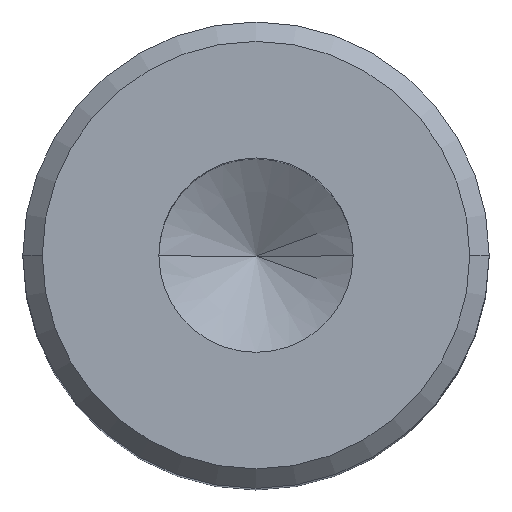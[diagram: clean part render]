
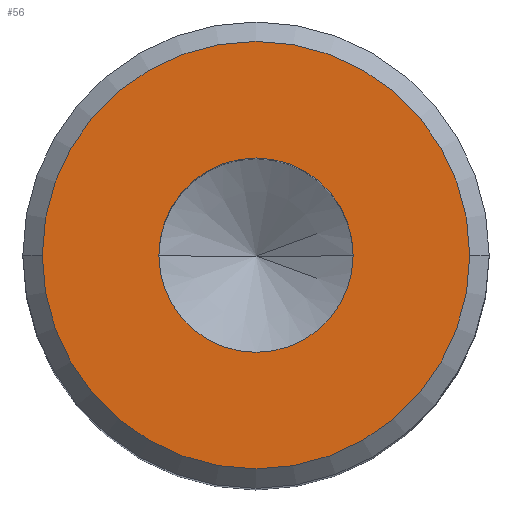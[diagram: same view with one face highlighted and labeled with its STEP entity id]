
A CAD part, top view. The second image highlights one B-rep face of the part: STEP entity #56.
In plain terms, the highlighted planar face has unit normal (0, 0, 1).
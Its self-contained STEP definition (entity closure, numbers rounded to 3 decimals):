
#20 = CARTESIAN_POINT ( 'NONE',  ( 0., 0., 25. ) ) ;
#26 = EDGE_CURVE ( 'NONE', #303, #65, #436, .T. ) ;
#35 = CARTESIAN_POINT ( 'NONE',  ( 0., 0., 25. ) ) ;
#45 = AXIS2_PLACEMENT_3D ( 'NONE', #325, #75, #362 ) ;
#53 = EDGE_CURVE ( 'NONE', #272, #454, #267, .T. ) ;
#56 = ADVANCED_FACE ( 'NONE', ( #170, #232 ), #396, .T. ) ;
#64 = ORIENTED_EDGE ( 'NONE', *, *, #317, .T. ) ;
#65 = VERTEX_POINT ( 'NONE', #397 ) ;
#66 = CARTESIAN_POINT ( 'NONE',  ( 5.5, 0., 25. ) ) ;
#75 = DIRECTION ( 'NONE',  ( 0., 0., 1. ) ) ;
#103 = DIRECTION ( 'NONE',  ( 1., 0., 0. ) ) ;
#120 = CIRCLE ( 'NONE', #147, 5.5 ) ;
#123 = EDGE_LOOP ( 'NONE', ( #64, #363 ) ) ;
#147 = AXIS2_PLACEMENT_3D ( 'NONE', #35, #470, #103 ) ;
#149 = ORIENTED_EDGE ( 'NONE', *, *, #53, .F. ) ;
#156 = AXIS2_PLACEMENT_3D ( 'NONE', #201, #207, #312 ) ;
#166 = DIRECTION ( 'NONE',  ( 0., 0., 1. ) ) ;
#170 = FACE_BOUND ( 'NONE', #474, .T. ) ;
#199 = CARTESIAN_POINT ( 'NONE',  ( 0., 0., 25. ) ) ;
#201 = CARTESIAN_POINT ( 'NONE',  ( 0., 0., 25. ) ) ;
#207 = DIRECTION ( 'NONE',  ( 0., 0., 1. ) ) ;
#216 = AXIS2_PLACEMENT_3D ( 'NONE', #199, #166, #244 ) ;
#217 = CARTESIAN_POINT ( 'NONE',  ( -2.5, 0., 25. ) ) ;
#232 = FACE_OUTER_BOUND ( 'NONE', #123, .T. ) ;
#244 = DIRECTION ( 'NONE',  ( 1., 0., 0. ) ) ;
#267 = CIRCLE ( 'NONE', #156, 2.5 ) ;
#272 = VERTEX_POINT ( 'NONE', #326 ) ;
#303 = VERTEX_POINT ( 'NONE', #66 ) ;
#312 = DIRECTION ( 'NONE',  ( 1., 0., 0. ) ) ;
#317 = EDGE_CURVE ( 'NONE', #65, #303, #120, .T. ) ;
#318 = DIRECTION ( 'NONE',  ( 0., 0., 1. ) ) ;
#325 = CARTESIAN_POINT ( 'NONE',  ( 0., 0., 25. ) ) ;
#326 = CARTESIAN_POINT ( 'NONE',  ( 2.5, 0., 25. ) ) ;
#352 = DIRECTION ( 'NONE',  ( 1., 0., 0. ) ) ;
#353 = EDGE_CURVE ( 'NONE', #454, #272, #370, .T. ) ;
#362 = DIRECTION ( 'NONE',  ( 1., 0., 0. ) ) ;
#363 = ORIENTED_EDGE ( 'NONE', *, *, #26, .T. ) ;
#370 = CIRCLE ( 'NONE', #45, 2.5 ) ;
#396 = PLANE ( 'NONE',  #216 ) ;
#397 = CARTESIAN_POINT ( 'NONE',  ( -5.5, 0., 25. ) ) ;
#398 = AXIS2_PLACEMENT_3D ( 'NONE', #20, #318, #352 ) ;
#403 = ORIENTED_EDGE ( 'NONE', *, *, #353, .F. ) ;
#436 = CIRCLE ( 'NONE', #398, 5.5 ) ;
#454 = VERTEX_POINT ( 'NONE', #217 ) ;
#470 = DIRECTION ( 'NONE',  ( 0., 0., 1. ) ) ;
#474 = EDGE_LOOP ( 'NONE', ( #149, #403 ) ) ;
